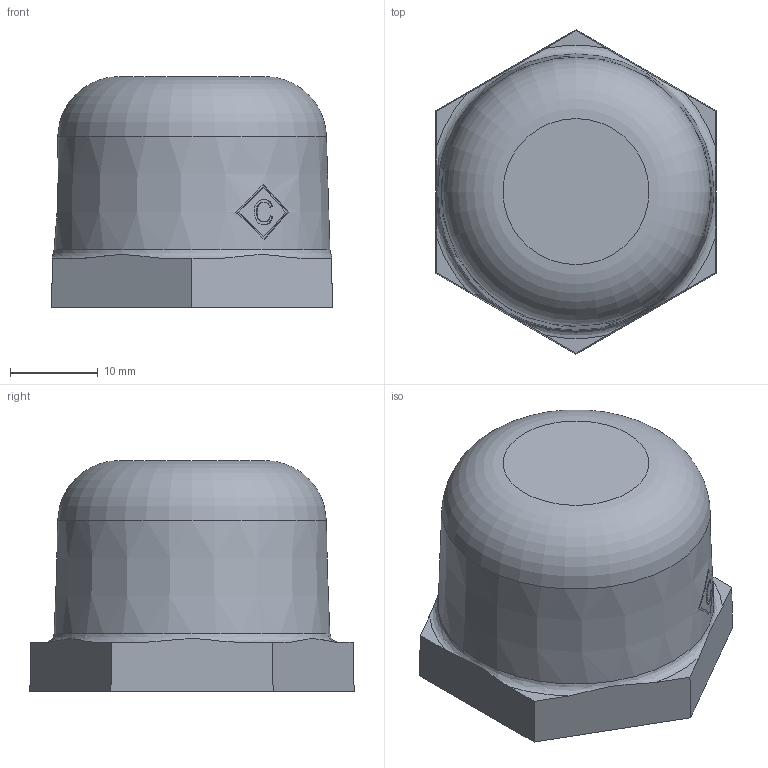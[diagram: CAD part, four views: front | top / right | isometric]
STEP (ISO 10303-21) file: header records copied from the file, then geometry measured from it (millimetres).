
FILE_DESCRIPTION((''),'2;1');
FILE_NAME('P:\Fastrack\53909_CRANE\Crane\Fig.185 Cap\New 0.75 inch\185-0.75.stp','2009-09-17T08:56:29',('btaylor'),(''),'Autodesk Inventor 2008','Autodesk Inventor 2008','');
FILE_SCHEMA(('AUTOMOTIVE_DESIGN { 1 0 10303 214 1 1 1 1 }'));
Length unit declared in the file: millimetre
Products named in the file (1): 185-0.75
Bounding box: 32 x 36.95 x 26.3 mm (x, y, z)
Volume: 11276.7 mm3; surface area: 5327.3 mm2
Topology: 1 solids, 1 shells, 42 faces, 104 edges, 68 vertices
Faces by surface type: plane 25, bspline 10, cone 6, torus 1
Entity records: 1699 total; most frequent: CARTESIAN_POINT 735, ORIENTED_EDGE 194, DIRECTION 174, EDGE_CURVE 97, VERTEX_POINT 67, AXIS2_PLACEMENT_3D 66, EDGE_LOOP 52, FACE_OUTER_BOUND 42
